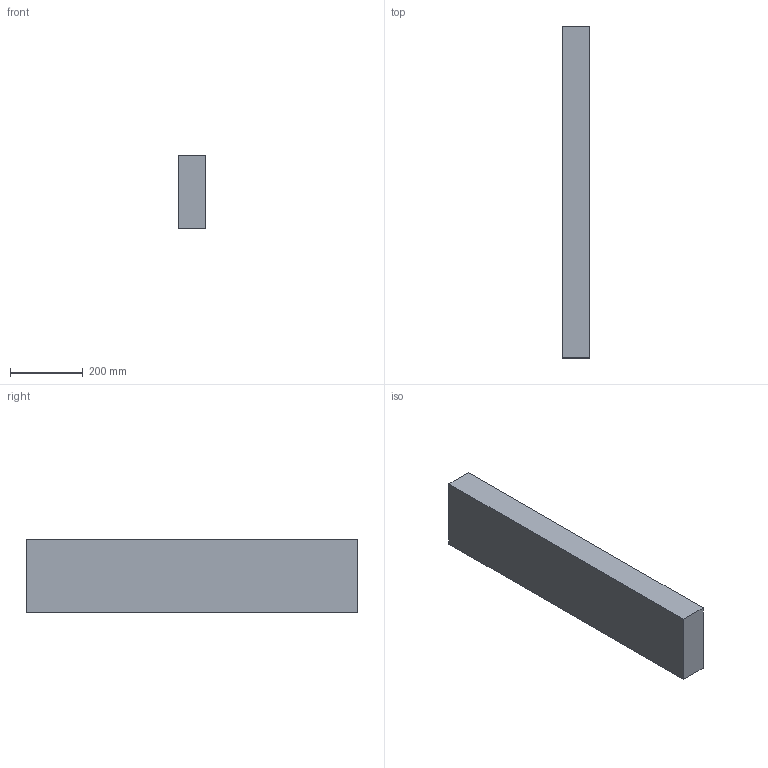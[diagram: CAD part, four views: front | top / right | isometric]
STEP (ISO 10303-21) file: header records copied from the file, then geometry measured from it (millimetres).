
FILE_DESCRIPTION(/* description */ (''),/* implementation_level */ '2;1');
FILE_NAME(/* name */ '3x8x36',/* time_stamp */ '2024-09-20T11:43:26-05:00',/* author */ (''),/* organization */ (''),/* preprocessor_version */ 'ST-DEVELOPER v19.2',/* originating_system */ 'Rhino 8.5',/* authorisation */ '');
FILE_SCHEMA (('CONFIG_CONTROL_DESIGN'));
Length unit declared in the file: inch
Products named in the file (1): Document
Bounding box: 76.2 x 914.4 x 203.2 mm (x, y, z)
Volume: 14158423.3 mm3; surface area: 541934.4 mm2
Topology: 1 solids, 1 shells, 6 faces, 12 edges, 8 vertices
Faces by surface type: plane 6
Entity records: 226 total; most frequent: CARTESIAN_POINT 40, ORIENTED_EDGE 24, EDGE_CURVE 12, B_SPLINE_CURVE_WITH_KNOTS 12, DIRECTION 10, VERTEX_POINT 8, AXIS2_PLACEMENT_3D 8, ORGANIZATION 7
